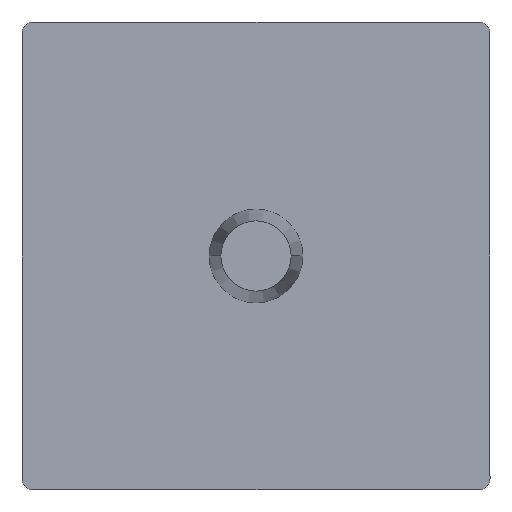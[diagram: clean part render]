
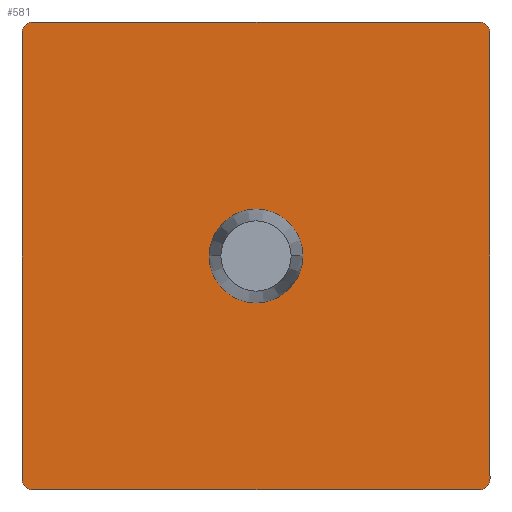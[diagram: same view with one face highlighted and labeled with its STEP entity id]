
A CAD part, front view. The second image highlights one B-rep face of the part: STEP entity #581.
In plain terms, the highlighted planar face has unit normal (0, -1, 0).
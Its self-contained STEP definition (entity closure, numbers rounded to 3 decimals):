
#10 = DIRECTION ( 'NONE',  ( 0., -1., 0. ) ) ;
#15 = EDGE_CURVE ( 'NONE', #511, #111, #32, .T. ) ;
#27 = LINE ( 'NONE', #245, #586 ) ;
#30 = LINE ( 'NONE', #460, #436 ) ;
#32 = CIRCLE ( 'NONE', #216, 1. ) ;
#43 = CIRCLE ( 'NONE', #139, 4. ) ;
#52 = VERTEX_POINT ( 'NONE', #128 ) ;
#53 = CARTESIAN_POINT ( 'NONE',  ( -19., 1., 19. ) ) ;
#63 = DIRECTION ( 'NONE',  ( 0., 0., -1. ) ) ;
#68 = CARTESIAN_POINT ( 'NONE',  ( -19., 1., -20. ) ) ;
#69 = DIRECTION ( 'NONE',  ( -1., 0., 0. ) ) ;
#80 = EDGE_CURVE ( 'NONE', #111, #621, #293, .T. ) ;
#81 = DIRECTION ( 'NONE',  ( 0., -1., 0. ) ) ;
#86 = EDGE_CURVE ( 'NONE', #584, #339, #398, .T. ) ;
#111 = VERTEX_POINT ( 'NONE', #443 ) ;
#114 = CARTESIAN_POINT ( 'NONE',  ( -20., 1., 20. ) ) ;
#122 = ORIENTED_EDGE ( 'NONE', *, *, #687, .T. ) ;
#128 = CARTESIAN_POINT ( 'NONE',  ( -20., 1., 19. ) ) ;
#134 = CARTESIAN_POINT ( 'NONE',  ( 0., 1., 0. ) ) ;
#139 = AXIS2_PLACEMENT_3D ( 'NONE', #608, #350, #255 ) ;
#140 = PLANE ( 'NONE',  #459 ) ;
#145 = EDGE_CURVE ( 'NONE', #492, #584, #261, .T. ) ;
#157 = CARTESIAN_POINT ( 'NONE',  ( -20., 1., -20. ) ) ;
#158 = CARTESIAN_POINT ( 'NONE',  ( -20., 1., -19. ) ) ;
#161 = DIRECTION ( 'NONE',  ( 0., -1., 0. ) ) ;
#164 = CARTESIAN_POINT ( 'NONE',  ( 20., 1., -19. ) ) ;
#168 = DIRECTION ( 'NONE',  ( 0., 0., -1. ) ) ;
#173 = ORIENTED_EDGE ( 'NONE', *, *, #80, .T. ) ;
#179 = VERTEX_POINT ( 'NONE', #582 ) ;
#193 = FACE_OUTER_BOUND ( 'NONE', #573, .T. ) ;
#200 = CARTESIAN_POINT ( 'NONE',  ( 19., 1., -20. ) ) ;
#216 = AXIS2_PLACEMENT_3D ( 'NONE', #568, #239, #63 ) ;
#226 = DIRECTION ( 'NONE',  ( 0., 0., -1. ) ) ;
#239 = DIRECTION ( 'NONE',  ( 0., -1., 0. ) ) ;
#245 = CARTESIAN_POINT ( 'NONE',  ( 20., 1., 20. ) ) ;
#253 = CARTESIAN_POINT ( 'NONE',  ( -19., 1., 20. ) ) ;
#255 = DIRECTION ( 'NONE',  ( 0., 0., -1. ) ) ;
#261 = LINE ( 'NONE', #157, #346 ) ;
#263 = CIRCLE ( 'NONE', #613, 1. ) ;
#273 = ORIENTED_EDGE ( 'NONE', *, *, #462, .T. ) ;
#289 = DIRECTION ( 'NONE',  ( 0., -1., 0. ) ) ;
#293 = LINE ( 'NONE', #114, #305 ) ;
#304 = ORIENTED_EDGE ( 'NONE', *, *, #430, .T. ) ;
#305 = VECTOR ( 'NONE', #69, 1000. ) ;
#308 = EDGE_CURVE ( 'NONE', #339, #511, #27, .T. ) ;
#310 = VERTEX_POINT ( 'NONE', #456 ) ;
#315 = EDGE_CURVE ( 'NONE', #179, #310, #620, .T. ) ;
#334 = VERTEX_POINT ( 'NONE', #158 ) ;
#339 = VERTEX_POINT ( 'NONE', #164 ) ;
#341 = CARTESIAN_POINT ( 'NONE',  ( 19., 1., -19. ) ) ;
#346 = VECTOR ( 'NONE', #532, 1000. ) ;
#350 = DIRECTION ( 'NONE',  ( 0., -1., 0. ) ) ;
#377 = DIRECTION ( 'NONE',  ( 0., 0., -1. ) ) ;
#381 = AXIS2_PLACEMENT_3D ( 'NONE', #134, #530, #226 ) ;
#387 = ORIENTED_EDGE ( 'NONE', *, *, #145, .T. ) ;
#391 = ORIENTED_EDGE ( 'NONE', *, *, #15, .T. ) ;
#398 = CIRCLE ( 'NONE', #693, 1. ) ;
#400 = DIRECTION ( 'NONE',  ( 0., 0., 1. ) ) ;
#409 = CARTESIAN_POINT ( 'NONE',  ( 0., 1., 0. ) ) ;
#410 = ORIENTED_EDGE ( 'NONE', *, *, #666, .F. ) ;
#430 = EDGE_CURVE ( 'NONE', #621, #52, #448, .T. ) ;
#436 = VECTOR ( 'NONE', #671, 1000. ) ;
#443 = CARTESIAN_POINT ( 'NONE',  ( 19., 1., 20. ) ) ;
#448 = CIRCLE ( 'NONE', #560, 1. ) ;
#450 = DIRECTION ( 'NONE',  ( 0., 0., -1. ) ) ;
#454 = FACE_BOUND ( 'NONE', #523, .T. ) ;
#456 = CARTESIAN_POINT ( 'NONE',  ( 0., 1., -4. ) ) ;
#459 = AXIS2_PLACEMENT_3D ( 'NONE', #409, #81, #510 ) ;
#460 = CARTESIAN_POINT ( 'NONE',  ( -20., 1., 20. ) ) ;
#462 = EDGE_CURVE ( 'NONE', #334, #492, #263, .T. ) ;
#491 = ORIENTED_EDGE ( 'NONE', *, *, #86, .T. ) ;
#492 = VERTEX_POINT ( 'NONE', #68 ) ;
#510 = DIRECTION ( 'NONE',  ( 0., 0., -1. ) ) ;
#511 = VERTEX_POINT ( 'NONE', #607 ) ;
#523 = EDGE_LOOP ( 'NONE', ( #410, #596 ) ) ;
#530 = DIRECTION ( 'NONE',  ( 0., -1., 0. ) ) ;
#532 = DIRECTION ( 'NONE',  ( 1., 0., 0. ) ) ;
#560 = AXIS2_PLACEMENT_3D ( 'NONE', #53, #161, #377 ) ;
#568 = CARTESIAN_POINT ( 'NONE',  ( 19., 1., 19. ) ) ;
#573 = EDGE_LOOP ( 'NONE', ( #273, #387, #491, #675, #391, #173, #304, #122 ) ) ;
#581 = ADVANCED_FACE ( 'NONE', ( #454, #193 ), #140, .T. ) ;
#582 = CARTESIAN_POINT ( 'NONE',  ( 0., 1., 4. ) ) ;
#584 = VERTEX_POINT ( 'NONE', #200 ) ;
#586 = VECTOR ( 'NONE', #400, 1000. ) ;
#596 = ORIENTED_EDGE ( 'NONE', *, *, #315, .F. ) ;
#604 = CARTESIAN_POINT ( 'NONE',  ( -19., 1., -19. ) ) ;
#607 = CARTESIAN_POINT ( 'NONE',  ( 20., 1., 19. ) ) ;
#608 = CARTESIAN_POINT ( 'NONE',  ( 0., 1., 0. ) ) ;
#613 = AXIS2_PLACEMENT_3D ( 'NONE', #604, #10, #450 ) ;
#620 = CIRCLE ( 'NONE', #381, 4. ) ;
#621 = VERTEX_POINT ( 'NONE', #253 ) ;
#666 = EDGE_CURVE ( 'NONE', #310, #179, #43, .T. ) ;
#671 = DIRECTION ( 'NONE',  ( 0., 0., -1. ) ) ;
#675 = ORIENTED_EDGE ( 'NONE', *, *, #308, .T. ) ;
#687 = EDGE_CURVE ( 'NONE', #52, #334, #30, .T. ) ;
#693 = AXIS2_PLACEMENT_3D ( 'NONE', #341, #289, #168 ) ;
